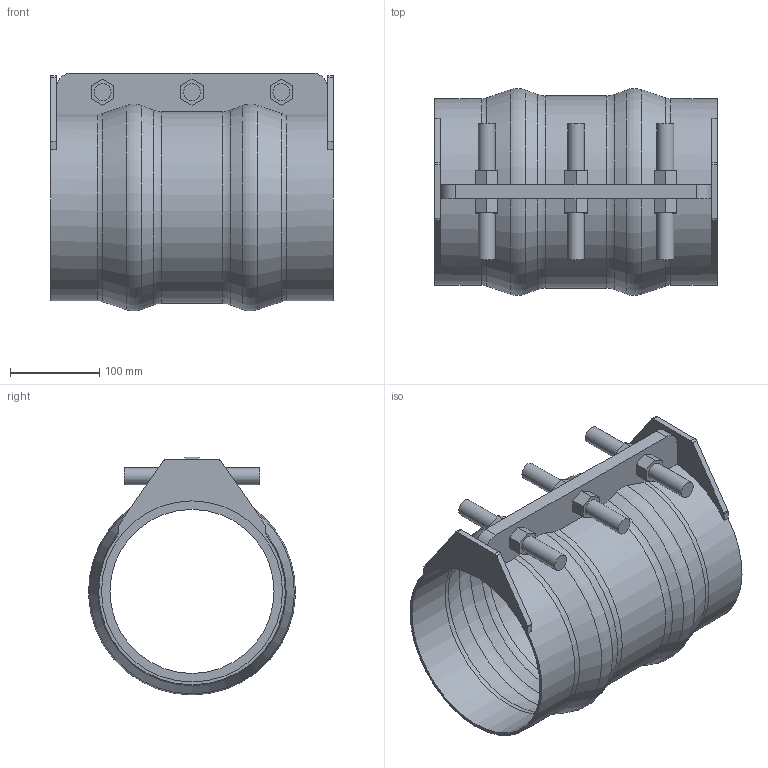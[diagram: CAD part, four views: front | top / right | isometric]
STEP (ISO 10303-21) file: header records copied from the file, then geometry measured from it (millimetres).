
FILE_DESCRIPTION(/* description */ ('VIC RESTRAINED COUPLING STYLE 233 (FLEX) (BRD)','CAx-IF Rec.Pracs.---Representation and Presentation of Product Manufacturing Information (PMI)---4.0---2014-10-13'),/* implementation_level */ '2;1');
FILE_NAME(/* name */ 'C:\Users\Vjadhav\Desktop\CAD for Inventor\Test for STEP\Vivek\Adsk_Inventor_Bolted Sleeve_iParts\STEP\Victaulic_VBSP_Coupling Flexible Restrained_Style 233 (BRD)\Victaulic_VBSP_Coupling Flexible Restrained_Style 233 (BRD)_300psi_8 (200).stp',/* time_stamp */ '2020-09-24T12:28:37+06:00',/* author */ ('Vjadhav'),/* organization */ ('Victaulic'),/* preprocessor_version */ 'ST-DEVELOPER v17.2',/* originating_system */ 'Autodesk Inventor 2019',/* authorisation */ '');
FILE_SCHEMA (('AP242_MANAGED_MODEL_BASED_3D_ENGINEERING_MIM_LF { 1 0 10303 442 1 1 4 }'));
Length unit declared in the file: inch
Products named in the file (1): Style_233_Type_2_300psi-08.0
Bounding box: 317.5 x 232.27 x 267.03 mm (x, y, z)
Volume: 1282533.4 mm3; surface area: 526964.4 mm2
Topology: 1 solids, 1 shells, 111 faces, 301 edges, 206 vertices
Faces by surface type: plane 67, cylinder 24, torus 12, cone 8
Full cylindrical faces by diameter (mm): 19.05 x6, 184.15 x1, 203.2 x2, 209.55 x2
Entity records: 3858 total; most frequent: CARTESIAN_POINT 732, DIRECTION 633, ORIENTED_EDGE 602, EDGE_CURVE 301, AXIS2_PLACEMENT_3D 227, VERTEX_POINT 206, LINE 179, VECTOR 179
